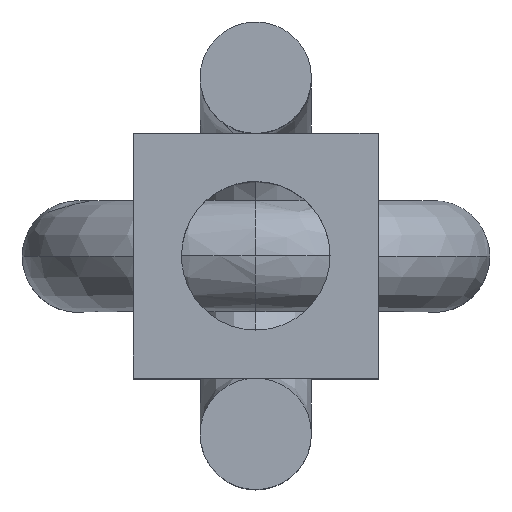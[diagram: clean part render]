
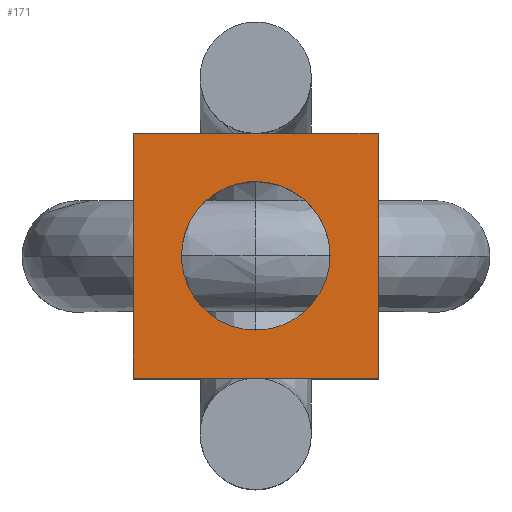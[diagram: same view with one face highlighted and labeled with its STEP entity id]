
A CAD part, top view. The second image highlights one B-rep face of the part: STEP entity #171.
In plain terms, the highlighted planar face has unit normal (0, 0, 1).
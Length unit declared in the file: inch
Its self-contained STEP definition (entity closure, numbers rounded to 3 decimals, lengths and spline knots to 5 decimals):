
#171=ADVANCED_FACE('',(#320,#321),#322,.F.);
#320=FACE_BOUND('',#973,.T.);
#321=FACE_OUTER_BOUND('',#974,.T.);
#322=PLANE('',#975);
#973=EDGE_LOOP('',(#1304,#1305,#1306,#1307));
#974=EDGE_LOOP('',(#1308,#1309,#1310,#1311));
#975=AXIS2_PLACEMENT_3D('',#1312,#1313,#1314);
#1304=ORIENTED_EDGE('',*,*,#1414,.T.);
#1305=ORIENTED_EDGE('',*,*,#1426,.T.);
#1306=ORIENTED_EDGE('',*,*,#1363,.T.);
#1307=ORIENTED_EDGE('',*,*,#1428,.T.);
#1308=ORIENTED_EDGE('',*,*,#1457,.F.);
#1309=ORIENTED_EDGE('',*,*,#1448,.F.);
#1310=ORIENTED_EDGE('',*,*,#1459,.F.);
#1311=ORIENTED_EDGE('',*,*,#1431,.F.);
#1312=CARTESIAN_POINT('',(0.41067,0.41067,2.75119));
#1313=DIRECTION('',(0.,0.,-1.0));
#1314=DIRECTION('',(1.0,0.,0.));
#1363=EDGE_CURVE('',#1502,#1500,#1503,.T.);
#1414=EDGE_CURVE('',#1581,#1579,#1582,.T.);
#1426=EDGE_CURVE('',#1579,#1502,#1598,.T.);
#1428=EDGE_CURVE('',#1500,#1581,#1600,.T.);
#1431=EDGE_CURVE('',#1602,#1604,#1605,.T.);
#1448=EDGE_CURVE('',#1623,#1625,#1626,.T.);
#1457=EDGE_CURVE('',#1625,#1602,#1637,.T.);
#1459=EDGE_CURVE('',#1604,#1623,#1639,.T.);
#1500=VERTEX_POINT('',#1701);
#1502=VERTEX_POINT('',#1704);
#1503=B_SPLINE_CURVE_WITH_KNOTS('',3,(#1705,#1706,#1707,#1708),.UNSPECIFIED.,.F.,.F.,(4,4),(0.0,1.0),.UNSPECIFIED.);
#1579=VERTEX_POINT('',#1834);
#1581=VERTEX_POINT('',#1837);
#1582=B_SPLINE_CURVE_WITH_KNOTS('',3,(#1838,#1839,#1840,#1841),.UNSPECIFIED.,.F.,.F.,(4,4),(0.0,1.0),.UNSPECIFIED.);
#1598=B_SPLINE_CURVE_WITH_KNOTS('',3,(#1868,#1869,#1870,#1871),.UNSPECIFIED.,.F.,.F.,(4,4),(0.0,1.0),.UNSPECIFIED.);
#1600=B_SPLINE_CURVE_WITH_KNOTS('',3,(#1873,#1874,#1875,#1876),.UNSPECIFIED.,.F.,.F.,(4,4),(0.0,1.0),.UNSPECIFIED.);
#1602=VERTEX_POINT('',#1878);
#1604=VERTEX_POINT('',#1881);
#1605=LINE('',#1882,#1883);
#1623=VERTEX_POINT('',#1919);
#1625=VERTEX_POINT('',#1922);
#1626=LINE('',#1923,#1924);
#1637=LINE('',#1938,#1939);
#1639=LINE('',#1941,#1942);
#1701=CARTESIAN_POINT('',(0.41067,0.66067,2.75119));
#1704=CARTESIAN_POINT('',(0.16067,0.41067,2.75119));
#1705=CARTESIAN_POINT('',(0.16067,0.41067,2.75119));
#1706=CARTESIAN_POINT('',(0.16067,0.54873,2.75119));
#1707=CARTESIAN_POINT('',(0.2726,0.66067,2.75119));
#1708=CARTESIAN_POINT('',(0.41067,0.66067,2.75119));
#1834=CARTESIAN_POINT('',(0.41067,0.16067,2.75119));
#1837=CARTESIAN_POINT('',(0.66067,0.41067,2.75119));
#1838=CARTESIAN_POINT('',(0.66067,0.41067,2.75119));
#1839=CARTESIAN_POINT('',(0.66067,0.27259,2.75119));
#1840=CARTESIAN_POINT('',(0.54873,0.16067,2.75119));
#1841=CARTESIAN_POINT('',(0.41067,0.16067,2.75119));
#1868=CARTESIAN_POINT('',(0.41067,0.16067,2.75119));
#1869=CARTESIAN_POINT('',(0.2726,0.16067,2.75119));
#1870=CARTESIAN_POINT('',(0.16067,0.27259,2.75119));
#1871=CARTESIAN_POINT('',(0.16067,0.41067,2.75119));
#1873=CARTESIAN_POINT('',(0.41067,0.66067,2.75119));
#1874=CARTESIAN_POINT('',(0.54873,0.66067,2.75119));
#1875=CARTESIAN_POINT('',(0.66067,0.54873,2.75119));
#1876=CARTESIAN_POINT('',(0.66067,0.41067,2.75119));
#1878=CARTESIAN_POINT('',(-0.00103,-0.00103,2.75119));
#1881=CARTESIAN_POINT('',(-0.00103,0.82236,2.75119));
#1882=CARTESIAN_POINT('',(-0.00103,-0.00103,2.75119));
#1883=VECTOR('',#2032,1.0);
#1919=CARTESIAN_POINT('',(0.82236,0.82236,2.75119));
#1922=CARTESIAN_POINT('',(0.82236,-0.00103,2.75119));
#1923=CARTESIAN_POINT('',(0.82236,0.82236,2.75119));
#1924=VECTOR('',#2045,1.0);
#1938=CARTESIAN_POINT('',(0.82236,-0.00103,2.75119));
#1939=VECTOR('',#2055,1.0);
#1941=CARTESIAN_POINT('',(-0.00103,0.82236,2.75119));
#1942=VECTOR('',#2056,1.0);
#2032=DIRECTION('',(0.0,1.0,0.0));
#2045=DIRECTION('',(0.0,-1.0,0.0));
#2055=DIRECTION('',(-1.0,-0.0,0.));
#2056=DIRECTION('',(1.0,0.0,0.));
